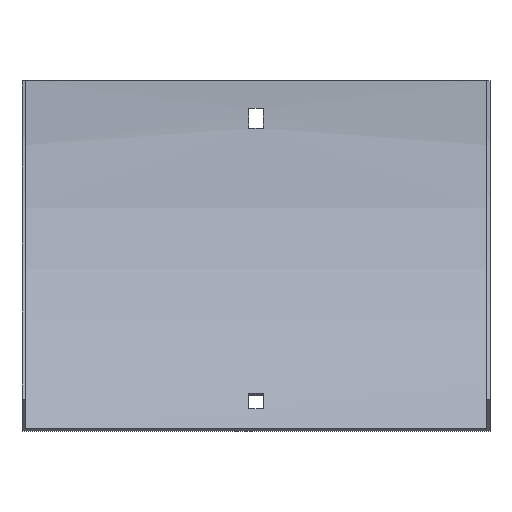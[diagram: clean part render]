
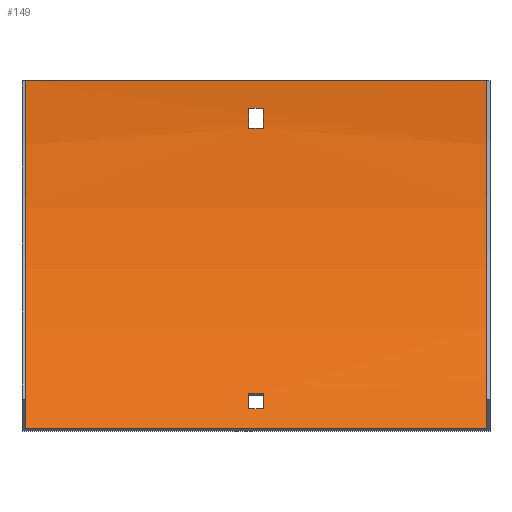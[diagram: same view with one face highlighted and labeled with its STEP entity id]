
A CAD part, front view. The second image highlights one B-rep face of the part: STEP entity #149.
In plain terms, the highlighted cylindrical face has radius 217.5 mm (diameter 435 mm), a partial arc.
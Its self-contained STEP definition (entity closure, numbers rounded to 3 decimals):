
#5 = DIRECTION ( 'NONE',  ( 1., 0., 0. ) ) ;
#7 = FACE_BOUND ( 'NONE', #371, .T. ) ;
#14 = VECTOR ( 'NONE', #108, 1000. ) ;
#16 = EDGE_CURVE ( 'NONE', #479, #138, #596, .T. ) ;
#25 = CIRCLE ( 'NONE', #191, 217.5 ) ;
#35 = CARTESIAN_POINT ( 'NONE',  ( 102., -65.204, -153.796 ) ) ;
#41 = CARTESIAN_POINT ( 'NONE',  ( 3.25, -2.516, -21. ) ) ;
#56 = CARTESIAN_POINT ( 'NONE',  ( 103.5, -51.074, -138.228 ) ) ;
#64 = CARTESIAN_POINT ( 'NONE',  ( 102., -65.204, -153.796 ) ) ;
#76 = ORIENTED_EDGE ( 'NONE', *, *, #537, .F. ) ;
#77 = DIRECTION ( 'NONE',  ( 0., 0., -1. ) ) ;
#80 = CARTESIAN_POINT ( 'NONE',  ( 102., -1.5, 0. ) ) ;
#87 = CARTESIAN_POINT ( 'NONE',  ( 102., -219., 0. ) ) ;
#88 = EDGE_CURVE ( 'NONE', #206, #119, #213, .T. ) ;
#90 = ORIENTED_EDGE ( 'NONE', *, *, #530, .T. ) ;
#91 = VECTOR ( 'NONE', #557, 1000. ) ;
#92 = CIRCLE ( 'NONE', #495, 217.5 ) ;
#108 = DIRECTION ( 'NONE',  ( -1., 0., 0. ) ) ;
#110 = DIRECTION ( 'NONE',  ( 1., 0., 0. ) ) ;
#111 = CIRCLE ( 'NONE', #538, 217.5 ) ;
#114 = ORIENTED_EDGE ( 'NONE', *, *, #451, .F. ) ;
#115 = CARTESIAN_POINT ( 'NONE',  ( 103.5, -1.831, -12. ) ) ;
#118 = VECTOR ( 'NONE', #5, 1000. ) ;
#119 = VERTEX_POINT ( 'NONE', #262 ) ;
#125 = ORIENTED_EDGE ( 'NONE', *, *, #365, .T. ) ;
#126 = DIRECTION ( 'NONE',  ( -1., 0., 0. ) ) ;
#137 = CARTESIAN_POINT ( 'NONE',  ( 103.5, -219., 0. ) ) ;
#138 = VERTEX_POINT ( 'NONE', #189 ) ;
#141 = FACE_BOUND ( 'NONE', #540, .T. ) ;
#143 = VERTEX_POINT ( 'NONE', #370 ) ;
#149 = ADVANCED_FACE ( 'NONE', ( #7, #423, #141 ), #329, .F. ) ;
#158 = DIRECTION ( 'NONE',  ( 0., 0., 1. ) ) ;
#160 = VERTEX_POINT ( 'NONE', #379 ) ;
#165 = DIRECTION ( 'NONE',  ( -1., 0., 0. ) ) ;
#183 = LINE ( 'NONE', #56, #118 ) ;
#184 = ORIENTED_EDGE ( 'NONE', *, *, #16, .F. ) ;
#187 = ORIENTED_EDGE ( 'NONE', *, *, #358, .T. ) ;
#189 = CARTESIAN_POINT ( 'NONE',  ( -3.25, -1.831, -12. ) ) ;
#191 = AXIS2_PLACEMENT_3D ( 'NONE', #580, #110, #341 ) ;
#194 = CARTESIAN_POINT ( 'NONE',  ( 103.5, -2.516, -21. ) ) ;
#197 = ORIENTED_EDGE ( 'NONE', *, *, #238, .T. ) ;
#199 = EDGE_LOOP ( 'NONE', ( #414, #348, #90, #418 ) ) ;
#202 = CARTESIAN_POINT ( 'NONE',  ( -102., -65.204, -153.796 ) ) ;
#206 = VERTEX_POINT ( 'NONE', #285 ) ;
#207 = DIRECTION ( 'NONE',  ( -1., 0., 0. ) ) ;
#209 = CARTESIAN_POINT ( 'NONE',  ( 3.25, -219., 0. ) ) ;
#213 = LINE ( 'NONE', #401, #597 ) ;
#217 = DIRECTION ( 'NONE',  ( 1., 0., 0. ) ) ;
#224 = DIRECTION ( 'NONE',  ( 0., 0., 1. ) ) ;
#231 = VERTEX_POINT ( 'NONE', #41 ) ;
#236 = ORIENTED_EDGE ( 'NONE', *, *, #88, .T. ) ;
#238 = EDGE_CURVE ( 'NONE', #143, #160, #183, .T. ) ;
#239 = DIRECTION ( 'NONE',  ( -1., 0., 0. ) ) ;
#242 = EDGE_CURVE ( 'NONE', #331, #231, #319, .T. ) ;
#262 = CARTESIAN_POINT ( 'NONE',  ( -3.25, -56.953, -145.076 ) ) ;
#264 = EDGE_CURVE ( 'NONE', #427, #491, #417, .T. ) ;
#265 = DIRECTION ( 'NONE',  ( 1., 0., 0. ) ) ;
#285 = CARTESIAN_POINT ( 'NONE',  ( 3.25, -56.953, -145.076 ) ) ;
#301 = VERTEX_POINT ( 'NONE', #202 ) ;
#302 = LINE ( 'NONE', #35, #445 ) ;
#319 = LINE ( 'NONE', #194, #91 ) ;
#325 = AXIS2_PLACEMENT_3D ( 'NONE', #137, #239, #224 ) ;
#329 = CYLINDRICAL_SURFACE ( 'NONE', #325, 217.5 ) ;
#331 = VERTEX_POINT ( 'NONE', #381 ) ;
#336 = VERTEX_POINT ( 'NONE', #64 ) ;
#341 = DIRECTION ( 'NONE',  ( 0., 0., -1. ) ) ;
#348 = ORIENTED_EDGE ( 'NONE', *, *, #460, .F. ) ;
#354 = CIRCLE ( 'NONE', #412, 217.5 ) ;
#358 = EDGE_CURVE ( 'NONE', #160, #206, #354, .T. ) ;
#365 = EDGE_CURVE ( 'NONE', #119, #143, #25, .T. ) ;
#370 = CARTESIAN_POINT ( 'NONE',  ( -3.25, -51.074, -138.228 ) ) ;
#371 = EDGE_LOOP ( 'NONE', ( #76, #184, #114, #462 ) ) ;
#375 = AXIS2_PLACEMENT_3D ( 'NONE', #87, #522, #606 ) ;
#379 = CARTESIAN_POINT ( 'NONE',  ( 3.25, -51.074, -138.228 ) ) ;
#381 = CARTESIAN_POINT ( 'NONE',  ( -3.25, -2.516, -21. ) ) ;
#401 = CARTESIAN_POINT ( 'NONE',  ( 103.5, -56.953, -145.076 ) ) ;
#404 = CARTESIAN_POINT ( 'NONE',  ( -102., -219., 0. ) ) ;
#412 = AXIS2_PLACEMENT_3D ( 'NONE', #428, #207, #158 ) ;
#414 = ORIENTED_EDGE ( 'NONE', *, *, #430, .F. ) ;
#417 = LINE ( 'NONE', #604, #14 ) ;
#418 = ORIENTED_EDGE ( 'NONE', *, *, #264, .T. ) ;
#423 = FACE_OUTER_BOUND ( 'NONE', #199, .T. ) ;
#427 = VERTEX_POINT ( 'NONE', #80 ) ;
#428 = CARTESIAN_POINT ( 'NONE',  ( 3.25, -219., 0. ) ) ;
#430 = EDGE_CURVE ( 'NONE', #301, #491, #505, .T. ) ;
#445 = VECTOR ( 'NONE', #126, 1000. ) ;
#451 = EDGE_CURVE ( 'NONE', #231, #479, #92, .T. ) ;
#460 = EDGE_CURVE ( 'NONE', #336, #301, #302, .T. ) ;
#462 = ORIENTED_EDGE ( 'NONE', *, *, #242, .F. ) ;
#463 = DIRECTION ( 'NONE',  ( 0., 0., 1. ) ) ;
#479 = VERTEX_POINT ( 'NONE', #546 ) ;
#491 = VERTEX_POINT ( 'NONE', #496 ) ;
#495 = AXIS2_PLACEMENT_3D ( 'NONE', #209, #217, #77 ) ;
#496 = CARTESIAN_POINT ( 'NONE',  ( -102., -1.5, 0. ) ) ;
#500 = DIRECTION ( 'NONE',  ( -1., 0., 0. ) ) ;
#502 = DIRECTION ( 'NONE',  ( 0., 0., 1. ) ) ;
#505 = CIRCLE ( 'NONE', #562, 217.5 ) ;
#522 = DIRECTION ( 'NONE',  ( 1., 0., 0. ) ) ;
#528 = CIRCLE ( 'NONE', #375, 217.5 ) ;
#530 = EDGE_CURVE ( 'NONE', #336, #427, #528, .T. ) ;
#537 = EDGE_CURVE ( 'NONE', #138, #331, #111, .T. ) ;
#538 = AXIS2_PLACEMENT_3D ( 'NONE', #603, #554, #463 ) ;
#540 = EDGE_LOOP ( 'NONE', ( #236, #125, #197, #187 ) ) ;
#546 = CARTESIAN_POINT ( 'NONE',  ( 3.25, -1.831, -12. ) ) ;
#554 = DIRECTION ( 'NONE',  ( -1., 0., 0. ) ) ;
#557 = DIRECTION ( 'NONE',  ( 1., 0., 0. ) ) ;
#562 = AXIS2_PLACEMENT_3D ( 'NONE', #404, #265, #502 ) ;
#573 = VECTOR ( 'NONE', #500, 1000. ) ;
#580 = CARTESIAN_POINT ( 'NONE',  ( -3.25, -219., 0. ) ) ;
#596 = LINE ( 'NONE', #115, #573 ) ;
#597 = VECTOR ( 'NONE', #165, 1000. ) ;
#603 = CARTESIAN_POINT ( 'NONE',  ( -3.25, -219., 0. ) ) ;
#604 = CARTESIAN_POINT ( 'NONE',  ( 102., -1.5, 0. ) ) ;
#606 = DIRECTION ( 'NONE',  ( 0., 0., 1. ) ) ;
